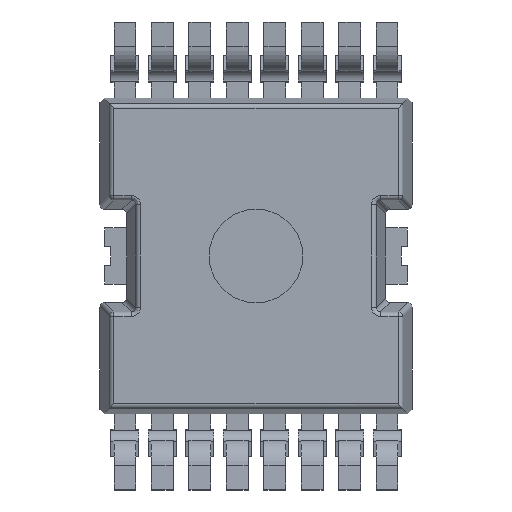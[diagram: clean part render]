
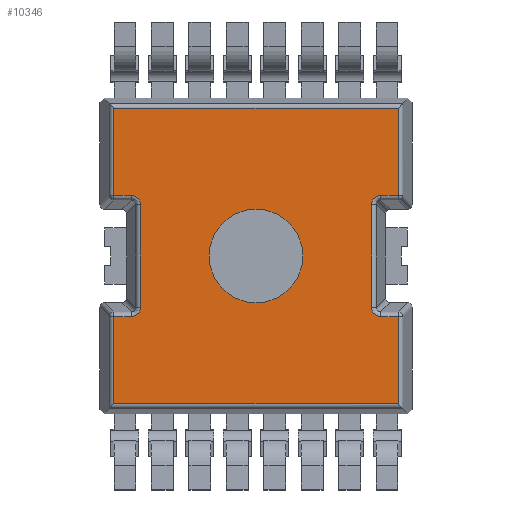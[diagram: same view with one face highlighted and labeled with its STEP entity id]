
A CAD part, front view. The second image highlights one B-rep face of the part: STEP entity #10346.
In plain terms, the highlighted planar face has unit normal (0, -1, 0).
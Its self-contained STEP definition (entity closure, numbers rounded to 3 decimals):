
#210=CARTESIAN_POINT('',(0.,-1.04,0.));
#211=DIRECTION('',(0.,-1.,0.));
#212=DIRECTION('',(-1.,0.,0.));
#213=AXIS2_PLACEMENT_3D('',#210,#211,#212);
#218=CARTESIAN_POINT('',(0.,-1.04,0.));
#219=DIRECTION('',(0.,-1.,0.));
#220=DIRECTION('',(1.,0.,0.));
#221=AXIS2_PLACEMENT_3D('',#218,#219,#220);
#226=DIRECTION('',(0.,0.,1.));
#227=VECTOR('',#226,2.798);
#228=CARTESIAN_POINT('',(4.557,-1.04,-4.741));
#229=LINE('',#228,#227);
#233=DIRECTION('',(0.,0.,-1.));
#234=VECTOR('',#233,2.798);
#235=CARTESIAN_POINT('',(-4.557,-1.04,
-1.943));
#236=LINE('',#235,#234);
#240=DIRECTION('',(-1.,0.,0.));
#241=VECTOR('',#240,0.555);
#242=CARTESIAN_POINT('',(-4.002,-1.04,
-1.943));
#243=LINE('',#242,#241);
#247=DIRECTION('',(0.,0.,-1.));
#248=VECTOR('',#247,3.296);
#249=CARTESIAN_POINT('',(-3.707,-1.04,1.648));
#250=LINE('',#249,#248);
#254=DIRECTION('',(1.,0.,0.));
#255=VECTOR('',#254,0.555);
#256=CARTESIAN_POINT('',(-4.557,-1.04,1.943));
#257=LINE('',#256,#255);
#261=DIRECTION('',(0.,0.,-1.));
#262=VECTOR('',#261,2.798);
#263=CARTESIAN_POINT('',(-4.557,-1.04,4.741));
#264=LINE('',#263,#262);
#268=DIRECTION('',(1.,0.,0.));
#269=VECTOR('',#268,9.113);
#270=CARTESIAN_POINT('',(-4.557,-1.04,4.741));
#271=LINE('',#270,#269);
#275=DIRECTION('',(0.,0.,1.));
#276=VECTOR('',#275,2.798);
#277=CARTESIAN_POINT('',(4.557,-1.04,1.943));
#278=LINE('',#277,#276);
#282=DIRECTION('',(1.,0.,0.));
#283=VECTOR('',#282,0.555);
#284=CARTESIAN_POINT('',(4.002,-1.04,1.943));
#285=LINE('',#284,#283);
#289=DIRECTION('',(0.,0.,1.));
#290=VECTOR('',#289,3.296);
#291=CARTESIAN_POINT('',(3.707,-1.04,-1.648));
#292=LINE('',#291,#290);
#296=DIRECTION('',(-1.,0.,0.));
#297=VECTOR('',#296,0.555);
#298=CARTESIAN_POINT('',(4.557,-1.04,-1.943));
#299=LINE('',#298,#297);
#7525=CARTESIAN_POINT('',(-4.557,-1.04,
-4.741));
#7538=DIRECTION('',(1.,0.,0.));
#7539=VECTOR('',#7538,9.113);
#7540=CARTESIAN_POINT('',(-4.557,-1.04,
-4.741));
#7541=LINE('',#7540,#7539);
#7553=CARTESIAN_POINT('',(4.557,-1.04,
-4.741));
#7582=CARTESIAN_POINT('',(-4.557,-1.04,
4.741));
#7594=CARTESIAN_POINT('',(4.557,-1.04,4.741));
#8157=CARTESIAN_POINT('',(3.707,-1.04,1.648));
#8158=CARTESIAN_POINT('',(3.707,-1.04,1.675));
#8159=CARTESIAN_POINT('',(3.714,-1.04,1.726));
#8160=CARTESIAN_POINT('',(3.743,-1.04,1.799));
#8161=CARTESIAN_POINT('',(3.79,-1.04,1.859));
#8162=CARTESIAN_POINT('',(3.851,-1.04,1.906));
#8163=CARTESIAN_POINT('',(3.924,-1.04,1.936));
#8164=CARTESIAN_POINT('',(3.975,-1.04,1.943));
#8165=CARTESIAN_POINT('',(4.002,-1.04,1.943));
#8199=CARTESIAN_POINT('',(4.002,-1.04,
-1.943));
#8200=CARTESIAN_POINT('',(3.975,-1.04,
-1.943));
#8201=CARTESIAN_POINT('',(3.924,-1.04,
-1.936));
#8202=CARTESIAN_POINT('',(3.851,-1.04,
-1.907));
#8203=CARTESIAN_POINT('',(3.791,-1.04,
-1.86));
#8204=CARTESIAN_POINT('',(3.744,-1.04,
-1.799));
#8205=CARTESIAN_POINT('',(3.714,-1.04,
-1.726));
#8206=CARTESIAN_POINT('',(3.707,-1.04,
-1.675));
#8207=CARTESIAN_POINT('',(3.707,-1.04,
-1.648));
#8522=CARTESIAN_POINT('',(-4.002,-1.04,
1.943));
#8523=CARTESIAN_POINT('',(-3.975,-1.04,
1.943));
#8524=CARTESIAN_POINT('',(-3.924,-1.04,
1.936));
#8525=CARTESIAN_POINT('',(-3.851,-1.04,
1.907));
#8526=CARTESIAN_POINT('',(-3.791,-1.04,
1.86));
#8527=CARTESIAN_POINT('',(-3.744,-1.04,
1.799));
#8528=CARTESIAN_POINT('',(-3.714,-1.04,
1.726));
#8529=CARTESIAN_POINT('',(-3.707,-1.04,
1.675));
#8530=CARTESIAN_POINT('',(-3.707,-1.04,
1.648));
#8564=CARTESIAN_POINT('',(-3.707,-1.04,
-1.648));
#8565=CARTESIAN_POINT('',(-3.707,-1.04,
-1.675));
#8566=CARTESIAN_POINT('',(-3.714,-1.04,
-1.726));
#8567=CARTESIAN_POINT('',(-3.743,-1.04,
-1.799));
#8568=CARTESIAN_POINT('',(-3.79,-1.04,
-1.859));
#8569=CARTESIAN_POINT('',(-3.851,-1.04,
-1.906));
#8570=CARTESIAN_POINT('',(-3.924,-1.04,
-1.936));
#8571=CARTESIAN_POINT('',(-3.975,-1.04,
-1.943));
#8572=CARTESIAN_POINT('',(-4.002,-1.04,
-1.943));
#9812=VERTEX_POINT('',#7525);
#9815=VERTEX_POINT('',#7582);
#9816=VERTEX_POINT('',#7594);
#9819=VERTEX_POINT('',#7553);
#9824=CARTESIAN_POINT('',(-1.5,-1.04,0.));
#9825=CARTESIAN_POINT('',(1.5,-1.04,0.));
#9826=VERTEX_POINT('',#9824);
#9827=VERTEX_POINT('',#9825);
#9840=CARTESIAN_POINT('',(4.002,-1.04,
-1.943));
#9841=VERTEX_POINT('',#9840);
#9842=CARTESIAN_POINT('',(3.707,-1.04,
-1.648));
#9843=VERTEX_POINT('',#9842);
#9856=CARTESIAN_POINT('',(3.707,-1.04,1.648));
#9857=VERTEX_POINT('',#9856);
#9858=CARTESIAN_POINT('',(4.002,-1.04,1.943));
#9859=VERTEX_POINT('',#9858);
#9866=CARTESIAN_POINT('',(4.557,-1.04,1.943));
#9868=VERTEX_POINT('',#9866);
#9873=CARTESIAN_POINT('',(4.557,-1.04,
-1.943));
#9875=VERTEX_POINT('',#9873);
#9896=CARTESIAN_POINT('',(-3.707,-1.04,
-1.648));
#9897=VERTEX_POINT('',#9896);
#9898=CARTESIAN_POINT('',(-4.002,-1.04,
-1.943));
#9899=VERTEX_POINT('',#9898);
#9912=CARTESIAN_POINT('',(-4.002,-1.04,
1.943));
#9913=VERTEX_POINT('',#9912);
#9914=CARTESIAN_POINT('',(-3.707,-1.04,
1.648));
#9915=VERTEX_POINT('',#9914);
#9923=CARTESIAN_POINT('',(-4.557,-1.04,
1.943));
#9925=VERTEX_POINT('',#9923);
#9934=CARTESIAN_POINT('',(-4.557,-1.04,
-1.943));
#9936=VERTEX_POINT('',#9934);
#10302=CARTESIAN_POINT('',(-5.,-1.04,4.741));
#10303=DIRECTION('',(0.,-1.,0.));
#10304=DIRECTION('',(0.,0.,-1.));
#10305=AXIS2_PLACEMENT_3D('',#10302,#10303,#10304);
#10306=PLANE('',#10305);
#10308=ORIENTED_EDGE('',*,*,#10307,.F.);
#10310=ORIENTED_EDGE('',*,*,#10309,.F.);
#10312=ORIENTED_EDGE('',*,*,#10311,.F.);
#10314=ORIENTED_EDGE('',*,*,#10313,.F.);
#10316=ORIENTED_EDGE('',*,*,#10315,.F.);
#10318=ORIENTED_EDGE('',*,*,#10317,.F.);
#10320=ORIENTED_EDGE('',*,*,#10319,.F.);
#10321=ORIENTED_EDGE('',*,*,#10293,.F.);
#10323=ORIENTED_EDGE('',*,*,#10322,.F.);
#10325=ORIENTED_EDGE('',*,*,#10324,.T.);
#10327=ORIENTED_EDGE('',*,*,#10326,.F.);
#10329=ORIENTED_EDGE('',*,*,#10328,.F.);
#10331=ORIENTED_EDGE('',*,*,#10330,.F.);
#10333=ORIENTED_EDGE('',*,*,#10332,.F.);
#10335=ORIENTED_EDGE('',*,*,#10334,.F.);
#10337=ORIENTED_EDGE('',*,*,#10336,.F.);
#10338=EDGE_LOOP('',(#10308,#10310,#10312,#10314,#10316,#10318,#10320,#10321,
#10323,#10325,#10327,#10329,#10331,#10333,#10335,#10337));
#10339=FACE_OUTER_BOUND('',#10338,.F.);
#10341=ORIENTED_EDGE('',*,*,#10340,.T.);
#10343=ORIENTED_EDGE('',*,*,#10342,.T.);
#10344=EDGE_LOOP('',(#10341,#10343));
#10345=FACE_BOUND('',#10344,.F.);
#214=CIRCLE('',#213,1.5);
#222=CIRCLE('',#221,1.5);
#8166=B_SPLINE_CURVE_WITH_KNOTS('',3,(#8157,#8158,#8159,#8160,#8161,#8162,#8163,
#8164,#8165),.UNSPECIFIED.,.F.,.F.,(4,1,1,1,1,1,4),(0.,0.167,
0.333,0.5,0.667,0.833,1.),
.UNSPECIFIED.);
#8208=B_SPLINE_CURVE_WITH_KNOTS('',3,(#8199,#8200,#8201,#8202,#8203,#8204,#8205,
#8206,#8207),.UNSPECIFIED.,.F.,.F.,(4,1,1,1,1,1,4),(0.,0.167,
0.333,0.5,0.667,0.833,1.),
.UNSPECIFIED.);
#8531=B_SPLINE_CURVE_WITH_KNOTS('',3,(#8522,#8523,#8524,#8525,#8526,#8527,#8528,
#8529,#8530),.UNSPECIFIED.,.F.,.F.,(4,1,1,1,1,1,4),(0.,0.167,
0.333,0.5,0.667,0.833,1.),
.UNSPECIFIED.);
#8573=B_SPLINE_CURVE_WITH_KNOTS('',3,(#8564,#8565,#8566,#8567,#8568,#8569,#8570,
#8571,#8572),.UNSPECIFIED.,.F.,.F.,(4,1,1,1,1,1,4),(0.,0.167,
0.333,0.5,0.667,0.833,1.),
.UNSPECIFIED.);
#10293=EDGE_CURVE('',#9925,#9913,#257,.T.);
#10307=EDGE_CURVE('',#9819,#9875,#229,.T.);
#10309=EDGE_CURVE('',#9812,#9819,#7541,.T.);
#10311=EDGE_CURVE('',#9936,#9812,#236,.T.);
#10313=EDGE_CURVE('',#9899,#9936,#243,.T.);
#10315=EDGE_CURVE('',#9897,#9899,#8573,.T.);
#10317=EDGE_CURVE('',#9915,#9897,#250,.T.);
#10319=EDGE_CURVE('',#9913,#9915,#8531,.T.);
#10322=EDGE_CURVE('',#9815,#9925,#264,.T.);
#10324=EDGE_CURVE('',#9815,#9816,#271,.T.);
#10326=EDGE_CURVE('',#9868,#9816,#278,.T.);
#10328=EDGE_CURVE('',#9859,#9868,#285,.T.);
#10330=EDGE_CURVE('',#9857,#9859,#8166,.T.);
#10332=EDGE_CURVE('',#9843,#9857,#292,.T.);
#10334=EDGE_CURVE('',#9841,#9843,#8208,.T.);
#10336=EDGE_CURVE('',#9875,#9841,#299,.T.);
#10340=EDGE_CURVE('',#9826,#9827,#214,.T.);
#10342=EDGE_CURVE('',#9827,#9826,#222,.T.);
#10346=ADVANCED_FACE('',(#10339,#10345),#10306,.T.);
